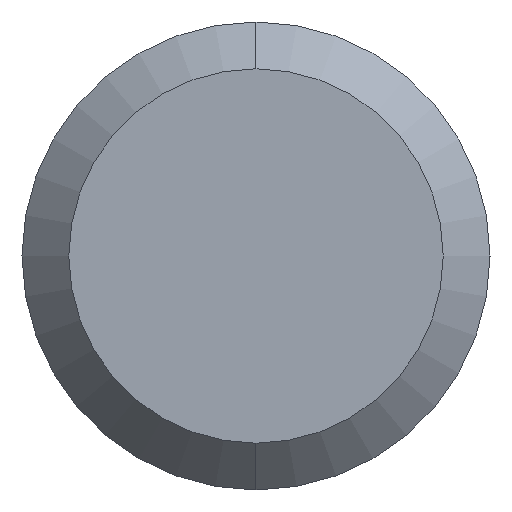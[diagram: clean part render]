
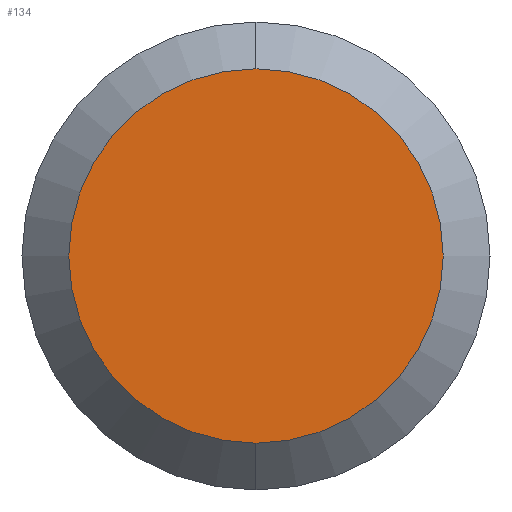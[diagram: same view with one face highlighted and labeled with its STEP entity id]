
A CAD part, left-side view. The second image highlights one B-rep face of the part: STEP entity #134.
In plain terms, the highlighted planar face has unit normal (-1, 0, 0).
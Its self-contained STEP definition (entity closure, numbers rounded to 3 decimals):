
#10 = VERTEX_POINT ( 'NONE', #336 ) ;
#35 = DIRECTION ( 'NONE',  ( 0., 0., -1. ) ) ;
#39 = CARTESIAN_POINT ( 'NONE',  ( 0., 0., 0. ) ) ;
#134 = ADVANCED_FACE ( 'NONE', ( #372 ), #241, .F. ) ;
#139 = DIRECTION ( 'NONE',  ( -1., 0., 0. ) ) ;
#164 = EDGE_CURVE ( 'NONE', #181, #10, #381, .T. ) ;
#169 = CARTESIAN_POINT ( 'NONE',  ( 0., 0., 1.6 ) ) ;
#181 = VERTEX_POINT ( 'NONE', #169 ) ;
#191 = EDGE_CURVE ( 'NONE', #10, #181, #260, .T. ) ;
#241 = PLANE ( 'NONE',  #277 ) ;
#260 = CIRCLE ( 'NONE', #490, 1.6 ) ;
#272 = DIRECTION ( 'NONE',  ( 0., 0., 1. ) ) ;
#274 = CARTESIAN_POINT ( 'NONE',  ( 0., 0., 0. ) ) ;
#277 = AXIS2_PLACEMENT_3D ( 'NONE', #39, #349, #35 ) ;
#287 = DIRECTION ( 'NONE',  ( 0., 0., 1. ) ) ;
#307 = CARTESIAN_POINT ( 'NONE',  ( 0., 0., 0. ) ) ;
#333 = ORIENTED_EDGE ( 'NONE', *, *, #191, .T. ) ;
#336 = CARTESIAN_POINT ( 'NONE',  ( 0., 0., -1.6 ) ) ;
#348 = AXIS2_PLACEMENT_3D ( 'NONE', #307, #454, #272 ) ;
#349 = DIRECTION ( 'NONE',  ( 1., 0., 0. ) ) ;
#372 = FACE_OUTER_BOUND ( 'NONE', #414, .T. ) ;
#381 = CIRCLE ( 'NONE', #348, 1.6 ) ;
#414 = EDGE_LOOP ( 'NONE', ( #333, #428 ) ) ;
#428 = ORIENTED_EDGE ( 'NONE', *, *, #164, .T. ) ;
#454 = DIRECTION ( 'NONE',  ( -1., 0., 0. ) ) ;
#490 = AXIS2_PLACEMENT_3D ( 'NONE', #274, #139, #287 ) ;
